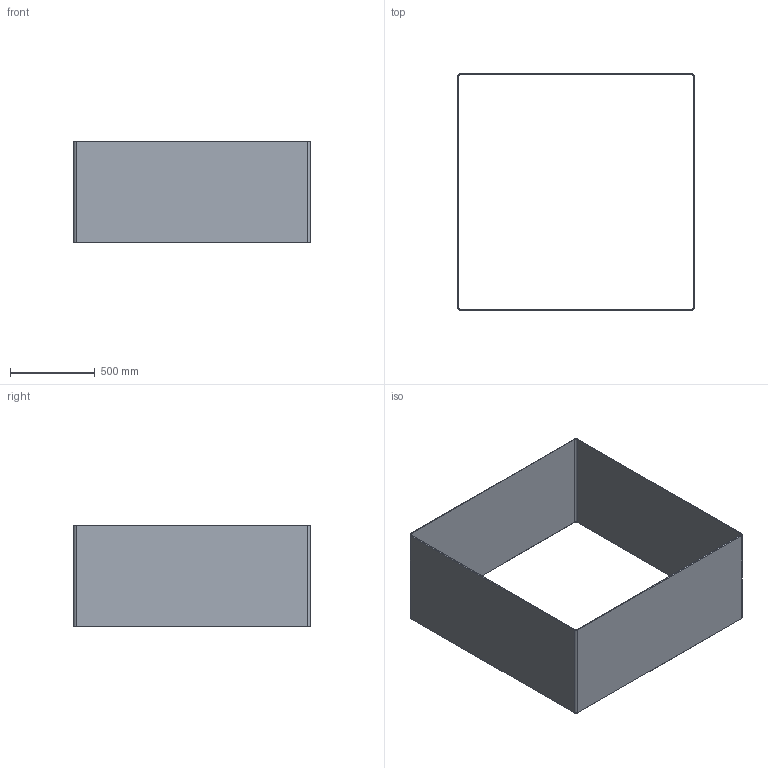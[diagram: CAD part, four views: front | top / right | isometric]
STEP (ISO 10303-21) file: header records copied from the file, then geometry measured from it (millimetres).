
FILE_DESCRIPTION((''),'2;1');
FILE_NAME('C:\Dokumente und Einstellungen\Huebner\Eigene Dateien\PRIVAT2\Blue Moon\3D\STEP_Bluemoon\8750.stp','2007-09-25T06:52:32',('Huebner'),(''),'Autodesk Inventor 11','Autodesk Inventor 11','');
FILE_SCHEMA(('AUTOMOTIVE_DESIGN { 1 0 10303 214 1 1 1 1 }'));
Length unit declared in the file: millimetre
Products named in the file (2): 8750
Assembly tree (1 placements, depth 2):
  8750
    8750
Bounding box: 1392 x 1392 x 600 mm (x, y, z)
Volume: 16568923.2 mm3; surface area: 6679972.9 mm2
Topology: 1 solids, 1 shells, 26 faces, 64 edges, 40 vertices
Faces by surface type: cylinder 12, plane 10, torus 4
Entity records: 825 total; most frequent: DIRECTION 150, CARTESIAN_POINT 133, ORIENTED_EDGE 128, EDGE_CURVE 64, AXIS2_PLACEMENT_3D 57, VERTEX_POINT 40, VECTOR 36, LINE 36
